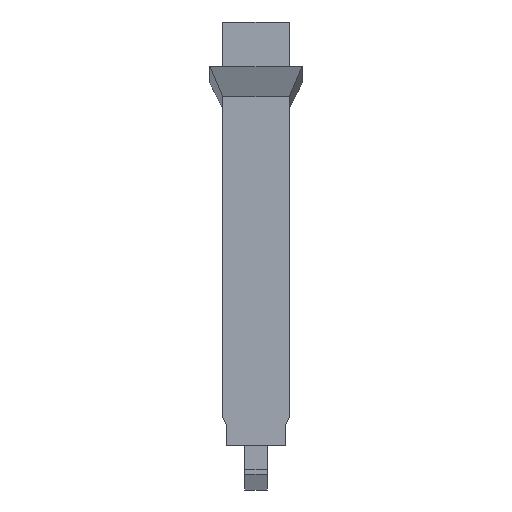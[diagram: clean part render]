
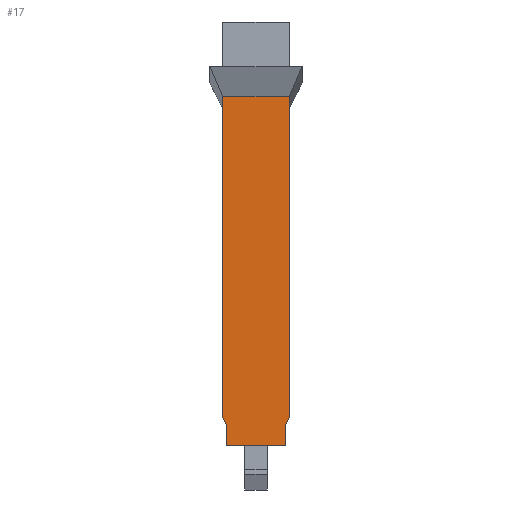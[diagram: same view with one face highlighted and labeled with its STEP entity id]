
A CAD part, left-side view. The second image highlights one B-rep face of the part: STEP entity #17.
In plain terms, the highlighted planar face has unit normal (-1, 0, 0).
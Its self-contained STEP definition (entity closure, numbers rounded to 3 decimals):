
#17 = ADVANCED_FACE('',(#18),#32,.F.);
#18 = FACE_BOUND('',#19,.F.);
#19 = EDGE_LOOP('',(#20,#55,#81,#107,#135,#161,#187,#215));
#20 = ORIENTED_EDGE('',*,*,#21,.F.);
#21 = EDGE_CURVE('',#22,#24,#26,.T.);
#22 = VERTEX_POINT('',#23);
#23 = CARTESIAN_POINT('',(-3.6,-3.6,-39.73));
#24 = VERTEX_POINT('',#25);
#25 = CARTESIAN_POINT('',(-3.6,-3.6,-5.052));
#26 = SURFACE_CURVE('',#27,(#31,#43),.PCURVE_S1.);
#27 = LINE('',#28,#29);
#28 = CARTESIAN_POINT('',(-3.6,-3.6,-42.83));
#29 = VECTOR('',#30,1.);
#30 = DIRECTION('',(0.,0.,1.));
#31 = PCURVE('',#32,#37);
#32 = PLANE('',#33);
#33 = AXIS2_PLACEMENT_3D('',#34,#35,#36);
#34 = CARTESIAN_POINT('',(-3.6,-3.6,-42.83));
#35 = DIRECTION('',(1.,0.,-0.));
#36 = DIRECTION('',(0.,0.,1.));
#37 = DEFINITIONAL_REPRESENTATION('',(#38),#42);
#38 = LINE('',#39,#40);
#39 = CARTESIAN_POINT('',(0.,0.));
#40 = VECTOR('',#41,1.);
#41 = DIRECTION('',(1.,0.));
#42 = ( GEOMETRIC_REPRESENTATION_CONTEXT(2) 
PARAMETRIC_REPRESENTATION_CONTEXT() REPRESENTATION_CONTEXT('2D SPACE',''
  ) );
#43 = PCURVE('',#44,#49);
#44 = PLANE('',#45);
#45 = AXIS2_PLACEMENT_3D('',#46,#47,#48);
#46 = CARTESIAN_POINT('',(-3.6,-3.6,-42.83));
#47 = DIRECTION('',(-0.,1.,0.));
#48 = DIRECTION('',(0.,0.,1.));
#49 = DEFINITIONAL_REPRESENTATION('',(#50),#54);
#50 = LINE('',#51,#52);
#51 = CARTESIAN_POINT('',(0.,0.));
#52 = VECTOR('',#53,1.);
#53 = DIRECTION('',(1.,0.));
#54 = ( GEOMETRIC_REPRESENTATION_CONTEXT(2) 
PARAMETRIC_REPRESENTATION_CONTEXT() REPRESENTATION_CONTEXT('2D SPACE',''
  ) );
#55 = ORIENTED_EDGE('',*,*,#56,.F.);
#56 = EDGE_CURVE('',#57,#22,#59,.T.);
#57 = VERTEX_POINT('',#58);
#58 = CARTESIAN_POINT('',(-3.6,-3.2,-40.63));
#59 = SURFACE_CURVE('',#60,(#64,#70),.PCURVE_S1.);
#60 = LINE('',#61,#62);
#61 = CARTESIAN_POINT('',(-3.6,-3.025,-41.025));
#62 = VECTOR('',#63,1.);
#63 = DIRECTION('',(0.,-0.406,0.914));
#64 = PCURVE('',#32,#65);
#65 = DEFINITIONAL_REPRESENTATION('',(#66),#69);
#66 = B_SPLINE_CURVE_WITH_KNOTS('',1,(#67,#68),.UNSPECIFIED.,.F.,.F.,(2,
    2),(0.432,1.416),.PIECEWISE_BEZIER_KNOTS.);
#67 = CARTESIAN_POINT('',(2.2,-0.4));
#68 = CARTESIAN_POINT('',(3.1,0.));
#69 = ( GEOMETRIC_REPRESENTATION_CONTEXT(2) 
PARAMETRIC_REPRESENTATION_CONTEXT() REPRESENTATION_CONTEXT('2D SPACE',''
  ) );
#70 = PCURVE('',#71,#76);
#71 = PLANE('',#72);
#72 = AXIS2_PLACEMENT_3D('',#73,#74,#75);
#73 = CARTESIAN_POINT('',(-4.,-3.6,-39.73));
#74 = DIRECTION('',(-0.,0.914,0.406));
#75 = DIRECTION('',(0.,0.406,-0.914));
#76 = DEFINITIONAL_REPRESENTATION('',(#77),#80);
#77 = B_SPLINE_CURVE_WITH_KNOTS('',1,(#78,#79),.UNSPECIFIED.,.F.,.F.,(2,
    2),(0.432,1.416),.PIECEWISE_BEZIER_KNOTS.);
#78 = CARTESIAN_POINT('',(0.985,-0.4));
#79 = CARTESIAN_POINT('',(0.,-0.4));
#80 = ( GEOMETRIC_REPRESENTATION_CONTEXT(2) 
PARAMETRIC_REPRESENTATION_CONTEXT() REPRESENTATION_CONTEXT('2D SPACE',''
  ) );
#81 = ORIENTED_EDGE('',*,*,#82,.F.);
#82 = EDGE_CURVE('',#83,#57,#85,.T.);
#83 = VERTEX_POINT('',#84);
#84 = CARTESIAN_POINT('',(-3.6,-3.2,-42.83));
#85 = SURFACE_CURVE('',#86,(#90,#96),.PCURVE_S1.);
#86 = LINE('',#87,#88);
#87 = CARTESIAN_POINT('',(-3.6,-3.2,-41.73));
#88 = VECTOR('',#89,1.);
#89 = DIRECTION('',(0.,0.,1.));
#90 = PCURVE('',#32,#91);
#91 = DEFINITIONAL_REPRESENTATION('',(#92),#95);
#92 = B_SPLINE_CURVE_WITH_KNOTS('',1,(#93,#94),.UNSPECIFIED.,.F.,.F.,(2,
    2),(-1.1,1.1),.PIECEWISE_BEZIER_KNOTS.);
#93 = CARTESIAN_POINT('',(0.,-0.4));
#94 = CARTESIAN_POINT('',(2.2,-0.4));
#95 = ( GEOMETRIC_REPRESENTATION_CONTEXT(2) 
PARAMETRIC_REPRESENTATION_CONTEXT() REPRESENTATION_CONTEXT('2D SPACE',''
  ) );
#96 = PCURVE('',#97,#102);
#97 = PLANE('',#98);
#98 = AXIS2_PLACEMENT_3D('',#99,#100,#101);
#99 = CARTESIAN_POINT('',(-4.,-3.2,-40.63));
#100 = DIRECTION('',(-0.,1.,0.));
#101 = DIRECTION('',(0.,0.,-1.));
#102 = DEFINITIONAL_REPRESENTATION('',(#103),#106);
#103 = B_SPLINE_CURVE_WITH_KNOTS('',1,(#104,#105),.UNSPECIFIED.,.F.,.F.,
  (2,2),(-1.1,1.1),.PIECEWISE_BEZIER_KNOTS.);
#104 = CARTESIAN_POINT('',(2.2,-0.4));
#105 = CARTESIAN_POINT('',(0.,-0.4));
#106 = ( GEOMETRIC_REPRESENTATION_CONTEXT(2) 
PARAMETRIC_REPRESENTATION_CONTEXT() REPRESENTATION_CONTEXT('2D SPACE',''
  ) );
#107 = ORIENTED_EDGE('',*,*,#108,.T.);
#108 = EDGE_CURVE('',#83,#109,#111,.T.);
#109 = VERTEX_POINT('',#110);
#110 = CARTESIAN_POINT('',(-3.6,3.2,-42.83));
#111 = SURFACE_CURVE('',#112,(#116,#123),.PCURVE_S1.);
#112 = LINE('',#113,#114);
#113 = CARTESIAN_POINT('',(-3.6,-3.6,-42.83));
#114 = VECTOR('',#115,1.);
#115 = DIRECTION('',(-0.,1.,0.));
#116 = PCURVE('',#32,#117);
#117 = DEFINITIONAL_REPRESENTATION('',(#118),#122);
#118 = LINE('',#119,#120);
#119 = CARTESIAN_POINT('',(0.,0.));
#120 = VECTOR('',#121,1.);
#121 = DIRECTION('',(0.,-1.));
#122 = ( GEOMETRIC_REPRESENTATION_CONTEXT(2) 
PARAMETRIC_REPRESENTATION_CONTEXT() REPRESENTATION_CONTEXT('2D SPACE',''
  ) );
#123 = PCURVE('',#124,#129);
#124 = PLANE('',#125);
#125 = AXIS2_PLACEMENT_3D('',#126,#127,#128);
#126 = CARTESIAN_POINT('',(-3.6,-3.6,-42.83));
#127 = DIRECTION('',(0.,0.,1.));
#128 = DIRECTION('',(1.,0.,-0.));
#129 = DEFINITIONAL_REPRESENTATION('',(#130),#134);
#130 = LINE('',#131,#132);
#131 = CARTESIAN_POINT('',(0.,0.));
#132 = VECTOR('',#133,1.);
#133 = DIRECTION('',(0.,1.));
#134 = ( GEOMETRIC_REPRESENTATION_CONTEXT(2) 
PARAMETRIC_REPRESENTATION_CONTEXT() REPRESENTATION_CONTEXT('2D SPACE',''
  ) );
#135 = ORIENTED_EDGE('',*,*,#136,.T.);
#136 = EDGE_CURVE('',#109,#137,#139,.T.);
#137 = VERTEX_POINT('',#138);
#138 = CARTESIAN_POINT('',(-3.6,3.2,-40.63));
#139 = SURFACE_CURVE('',#140,(#144,#150),.PCURVE_S1.);
#140 = LINE('',#141,#142);
#141 = CARTESIAN_POINT('',(-3.6,3.2,-41.73));
#142 = VECTOR('',#143,1.);
#143 = DIRECTION('',(0.,0.,1.));
#144 = PCURVE('',#32,#145);
#145 = DEFINITIONAL_REPRESENTATION('',(#146),#149);
#146 = B_SPLINE_CURVE_WITH_KNOTS('',1,(#147,#148),.UNSPECIFIED.,.F.,.F.,
  (2,2),(-1.1,1.1),.PIECEWISE_BEZIER_KNOTS.);
#147 = CARTESIAN_POINT('',(0.,-6.8));
#148 = CARTESIAN_POINT('',(2.2,-6.8));
#149 = ( GEOMETRIC_REPRESENTATION_CONTEXT(2) 
PARAMETRIC_REPRESENTATION_CONTEXT() REPRESENTATION_CONTEXT('2D SPACE',''
  ) );
#150 = PCURVE('',#151,#156);
#151 = PLANE('',#152);
#152 = AXIS2_PLACEMENT_3D('',#153,#154,#155);
#153 = CARTESIAN_POINT('',(-4.,3.2,-40.63));
#154 = DIRECTION('',(-0.,1.,0.));
#155 = DIRECTION('',(0.,0.,-1.));
#156 = DEFINITIONAL_REPRESENTATION('',(#157),#160);
#157 = B_SPLINE_CURVE_WITH_KNOTS('',1,(#158,#159),.UNSPECIFIED.,.F.,.F.,
  (2,2),(-1.1,1.1),.PIECEWISE_BEZIER_KNOTS.);
#158 = CARTESIAN_POINT('',(2.2,-0.4));
#159 = CARTESIAN_POINT('',(0.,-0.4));
#160 = ( GEOMETRIC_REPRESENTATION_CONTEXT(2) 
PARAMETRIC_REPRESENTATION_CONTEXT() REPRESENTATION_CONTEXT('2D SPACE',''
  ) );
#161 = ORIENTED_EDGE('',*,*,#162,.T.);
#162 = EDGE_CURVE('',#137,#163,#165,.T.);
#163 = VERTEX_POINT('',#164);
#164 = CARTESIAN_POINT('',(-3.6,3.6,-39.73));
#165 = SURFACE_CURVE('',#166,(#170,#176),.PCURVE_S1.);
#166 = LINE('',#167,#168);
#167 = CARTESIAN_POINT('',(-3.6,2.431,-42.361));
#168 = VECTOR('',#169,1.);
#169 = DIRECTION('',(0.,0.406,0.914));
#170 = PCURVE('',#32,#171);
#171 = DEFINITIONAL_REPRESENTATION('',(#172),#175);
#172 = B_SPLINE_CURVE_WITH_KNOTS('',1,(#173,#174),.UNSPECIFIED.,.F.,.F.,
  (2,2),(1.894,2.879),.PIECEWISE_BEZIER_KNOTS.);
#173 = CARTESIAN_POINT('',(2.2,-6.8));
#174 = CARTESIAN_POINT('',(3.1,-7.2));
#175 = ( GEOMETRIC_REPRESENTATION_CONTEXT(2) 
PARAMETRIC_REPRESENTATION_CONTEXT() REPRESENTATION_CONTEXT('2D SPACE',''
  ) );
#176 = PCURVE('',#177,#182);
#177 = PLANE('',#178);
#178 = AXIS2_PLACEMENT_3D('',#179,#180,#181);
#179 = CARTESIAN_POINT('',(-4.,3.6,-39.73));
#180 = DIRECTION('',(0.,0.914,-0.406));
#181 = DIRECTION('',(0.,-0.406,-0.914));
#182 = DEFINITIONAL_REPRESENTATION('',(#183),#186);
#183 = B_SPLINE_CURVE_WITH_KNOTS('',1,(#184,#185),.UNSPECIFIED.,.F.,.F.,
  (2,2),(1.894,2.879),.PIECEWISE_BEZIER_KNOTS.);
#184 = CARTESIAN_POINT('',(0.985,-0.4));
#185 = CARTESIAN_POINT('',(0.,-0.4));
#186 = ( GEOMETRIC_REPRESENTATION_CONTEXT(2) 
PARAMETRIC_REPRESENTATION_CONTEXT() REPRESENTATION_CONTEXT('2D SPACE',''
  ) );
#187 = ORIENTED_EDGE('',*,*,#188,.T.);
#188 = EDGE_CURVE('',#163,#189,#191,.T.);
#189 = VERTEX_POINT('',#190);
#190 = CARTESIAN_POINT('',(-3.6,3.6,-5.052));
#191 = SURFACE_CURVE('',#192,(#196,#203),.PCURVE_S1.);
#192 = LINE('',#193,#194);
#193 = CARTESIAN_POINT('',(-3.6,3.6,-42.83));
#194 = VECTOR('',#195,1.);
#195 = DIRECTION('',(0.,0.,1.));
#196 = PCURVE('',#32,#197);
#197 = DEFINITIONAL_REPRESENTATION('',(#198),#202);
#198 = LINE('',#199,#200);
#199 = CARTESIAN_POINT('',(0.,-7.2));
#200 = VECTOR('',#201,1.);
#201 = DIRECTION('',(1.,0.));
#202 = ( GEOMETRIC_REPRESENTATION_CONTEXT(2) 
PARAMETRIC_REPRESENTATION_CONTEXT() REPRESENTATION_CONTEXT('2D SPACE',''
  ) );
#203 = PCURVE('',#204,#209);
#204 = PLANE('',#205);
#205 = AXIS2_PLACEMENT_3D('',#206,#207,#208);
#206 = CARTESIAN_POINT('',(-3.6,3.6,-42.83));
#207 = DIRECTION('',(-0.,1.,0.));
#208 = DIRECTION('',(0.,0.,1.));
#209 = DEFINITIONAL_REPRESENTATION('',(#210),#214);
#210 = LINE('',#211,#212);
#211 = CARTESIAN_POINT('',(0.,0.));
#212 = VECTOR('',#213,1.);
#213 = DIRECTION('',(1.,0.));
#214 = ( GEOMETRIC_REPRESENTATION_CONTEXT(2) 
PARAMETRIC_REPRESENTATION_CONTEXT() REPRESENTATION_CONTEXT('2D SPACE',''
  ) );
#215 = ORIENTED_EDGE('',*,*,#216,.T.);
#216 = EDGE_CURVE('',#189,#24,#217,.T.);
#217 = SURFACE_CURVE('',#218,(#222,#229),.PCURVE_S1.);
#218 = LINE('',#219,#220);
#219 = CARTESIAN_POINT('',(-3.6,3.6,-5.052));
#220 = VECTOR('',#221,1.);
#221 = DIRECTION('',(0.,-1.,0.));
#222 = PCURVE('',#32,#223);
#223 = DEFINITIONAL_REPRESENTATION('',(#224),#228);
#224 = LINE('',#225,#226);
#225 = CARTESIAN_POINT('',(37.779,-7.2));
#226 = VECTOR('',#227,1.);
#227 = DIRECTION('',(0.,1.));
#228 = ( GEOMETRIC_REPRESENTATION_CONTEXT(2) 
PARAMETRIC_REPRESENTATION_CONTEXT() REPRESENTATION_CONTEXT('2D SPACE',''
  ) );
#229 = PCURVE('',#230,#235);
#230 = B_SPLINE_SURFACE_WITH_KNOTS('',1,1,(
    (#231,#232)
    ,(#233,#234
  )),.UNSPECIFIED.,.F.,.F.,.F.,(2,2),(2,2),(0.,10.),(0.,1.),
  .PIECEWISE_BEZIER_KNOTS.);
#231 = CARTESIAN_POINT('',(-3.6,3.6,-5.052));
#232 = CARTESIAN_POINT('',(-5.,5.,-1.758));
#233 = CARTESIAN_POINT('',(-3.6,-3.6,-5.052));
#234 = CARTESIAN_POINT('',(-5.,-5.,-1.758));
#235 = DEFINITIONAL_REPRESENTATION('',(#236),#239);
#236 = B_SPLINE_CURVE_WITH_KNOTS('',1,(#237,#238),.UNSPECIFIED.,.F.,.F.,
  (2,2),(0.,7.2),.PIECEWISE_BEZIER_KNOTS.);
#237 = CARTESIAN_POINT('',(0.,0.));
#238 = CARTESIAN_POINT('',(10.,0.));
#239 = ( GEOMETRIC_REPRESENTATION_CONTEXT(2) 
PARAMETRIC_REPRESENTATION_CONTEXT() REPRESENTATION_CONTEXT('2D SPACE',''
  ) );
